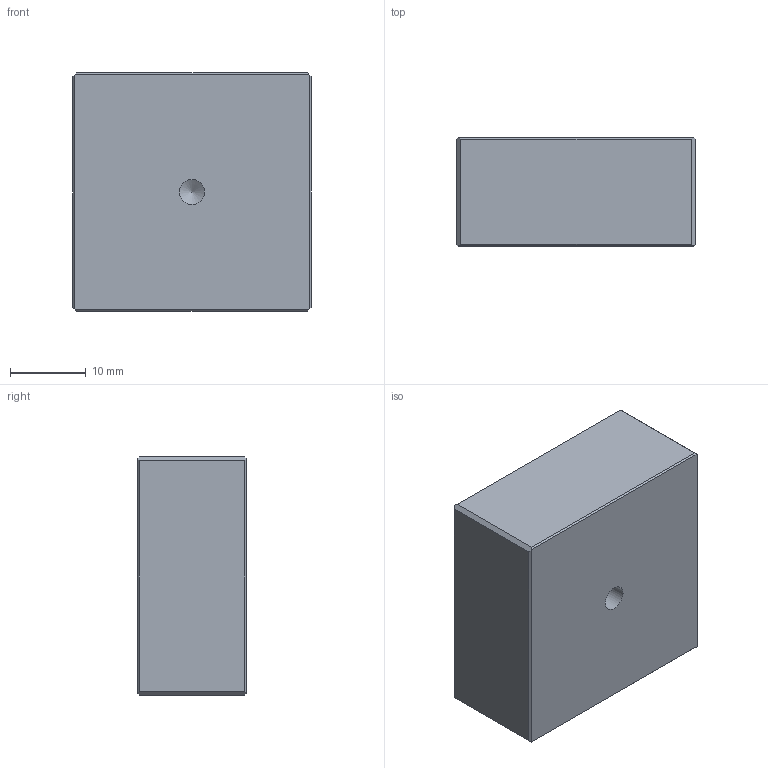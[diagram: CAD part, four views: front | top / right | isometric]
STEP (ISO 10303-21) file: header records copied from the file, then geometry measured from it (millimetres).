
FILE_DESCRIPTION (( 'STEP AP214' ), '1' );
FILE_NAME ('PBS蝶梜假蚾殤.STEP', '2026-10-31T08:35:17', ( '' ), ( '' ), 'SwSTEP 2.0', 'SolidWorks 2022', '' );
FILE_SCHEMA (( 'AUTOMOTIVE_DESIGN' ));
Length unit declared in the file: millimetre
Products named in the file (1): PBS蝶梜假蚾殤
Bounding box: 31.5 x 14.3 x 31.5 mm (x, y, z)
Volume: 12746.2 mm3; surface area: 4114.2 mm2
Topology: 1 solids, 1 shells, 55 faces, 120 edges, 77 vertices
Faces by surface type: plane 36, cylinder 14, cone 5
Full cylindrical faces by diameter (mm): 2 x9, 3.3 x1
Entity records: 1483 total; most frequent: CARTESIAN_POINT 264, DIRECTION 244, ORIENTED_EDGE 216, EDGE_CURVE 108, AXIS2_PLACEMENT_3D 88, EDGE_LOOP 76, VERTEX_POINT 76, LINE 68
